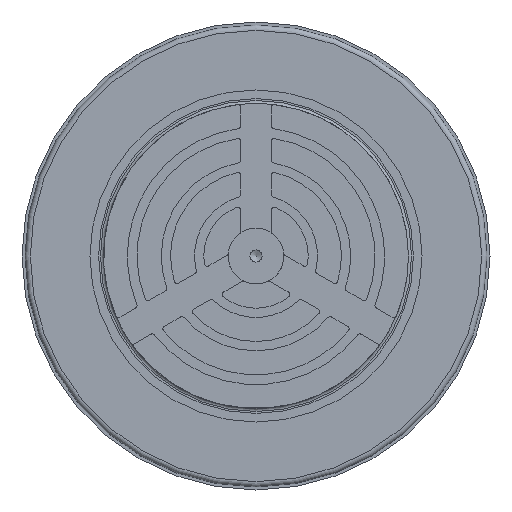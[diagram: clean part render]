
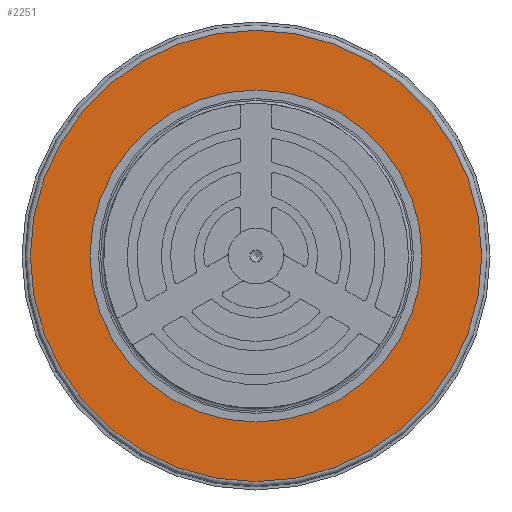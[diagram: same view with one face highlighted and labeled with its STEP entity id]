
A CAD part, front view. The second image highlights one B-rep face of the part: STEP entity #2251.
In plain terms, the highlighted planar face has unit normal (0, -1, 0).
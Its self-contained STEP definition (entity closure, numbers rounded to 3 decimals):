
#362=PLANE('',#2564);
#383=FACE_BOUND('',#663,.T.);
#516=FACE_OUTER_BOUND('',#662,.T.);
#662=EDGE_LOOP('',(#2012));
#663=EDGE_LOOP('',(#2013));
#717=CIRCLE('',#2310,110.);
#865=CIRCLE('',#2565,149.479);
#891=VERTEX_POINT('',#3397);
#1087=VERTEX_POINT('',#3992);
#1113=EDGE_CURVE('',#891,#891,#717,.T.);
#1405=EDGE_CURVE('',#1087,#1087,#865,.T.);
#2012=ORIENTED_EDGE('',*,*,#1405,.T.);
#2013=ORIENTED_EDGE('',*,*,#1113,.T.);
#2251=ADVANCED_FACE('',(#516,#383),#362,.T.);
#2310=AXIS2_PLACEMENT_3D('',#3398,#2628,#2629);
#2564=AXIS2_PLACEMENT_3D('',#3991,#3280,#3281);
#2565=AXIS2_PLACEMENT_3D('',#3993,#3282,#3283);
#2628=DIRECTION('center_axis',(0.,1.,0.));
#2629=DIRECTION('ref_axis',(-1.,0.,0.));
#3280=DIRECTION('center_axis',(0.,-1.,0.));
#3281=DIRECTION('ref_axis',(0.,0.,-1.));
#3282=DIRECTION('center_axis',(0.,-1.,0.));
#3283=DIRECTION('ref_axis',(1.,0.,0.));
#3397=CARTESIAN_POINT('',(110.,22.527,0.));
#3398=CARTESIAN_POINT('Origin',(0.,22.527,0.));
#3991=CARTESIAN_POINT('Origin',(127.385,22.527,0.));
#3992=CARTESIAN_POINT('',(149.479,22.527,0.));
#3993=CARTESIAN_POINT('Origin',(0.,22.527,0.));
